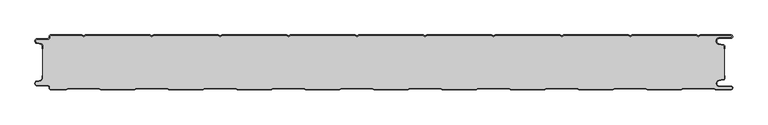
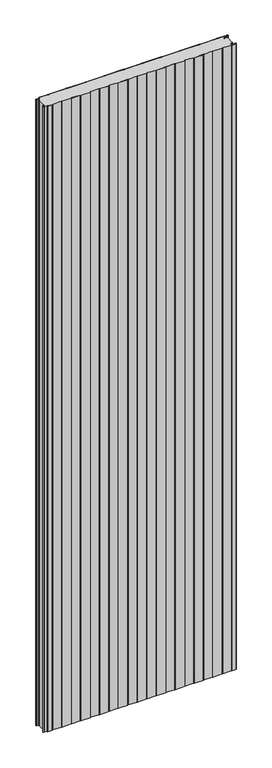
"""IFC4 building model written with IfcOpenShell, lengths in millimetres: plate geometry, PMH_Curtain-PaneL-Standard : ACH_PMH_Stone-wool-Panel_80M."""

from ifc_helpers import new_model, si_unit, point, frame_2d, origin, origin_with_axes, place, context, project, spatial, polyline, circle_curve, trimmed, segment, composite_curve, outline, extrude, source, transform, mapped, element, save


def plate_03b74a93(model_context):
    return source(origin(), model_context, "Body", "SweptSolid", [
        extrude(outline(composite_curve([segment(trimmed(circle_curve(frame_2d((-502.0, -15.878557)), 2.0), [point((-500.0, -15.878557))], [point((-501.5500978, -13.9298169))], True, "CARTESIAN"), True, "CONTINUOUS"), segment(polyline([(-501.5500978, -13.9298169), (-507.7098239, -12.507732)]), True, "CONTINUOUS"), segment(trimmed(circle_curve(frame_2d((-506.9, -9.0)), 3.6), [point((-507.7098239, -12.507732))], [point((-506.9, -5.4))], False, "CARTESIAN"), True, "CONTINUOUS"), segment(polyline([(-506.9, -5.4), (-491.4, -5.4)]), True, "CONTINUOUS"), segment(trimmed(circle_curve(frame_2d((-491.4, -3.4)), 2.0), [point((-491.4, -5.4))], [point((-489.4, -3.4))], True, "CARTESIAN"), True, "CONTINUOUS"), segment(polyline([(-489.4, -3.4), (-489.4, -2.0)]), True, "CONTINUOUS"), segment(trimmed(circle_curve(frame_2d((-487.4, -2.0)), 2.0), [point((-489.4, -2.0))], [point((-487.4, 0.0))], False, "CARTESIAN"), True, "CONTINUOUS"), segment(polyline([(-487.4, 0.0), (-442.0999995, 0.0), (-439.4, -1.5588455), (-436.7000005, 0.0), (-342.0999995, 0.0), (-339.4, -1.5588455), (-336.7000005, 0.0), (-242.0999995, 0.0), (-239.4, -1.5588455), (-236.7000005, 0.0), (-142.0999995, 0.0), (-139.4, -1.5588455), (-136.7000005, 0.0), (-42.0999995, 0.0), (-39.4, -1.5588455), (-36.7000005, 0.0), (57.9000005, 0.0), (60.6, -1.5588455), (63.2999995, 0.0), (157.9000005, 0.0), (160.6, -1.5588455), (163.2999995, 0.0), (257.9000005, 0.0), (260.6, -1.5588455), (263.2999995, 0.0), (357.9000005, 0.0), (360.6, -1.5588455), (363.2999995, 0.0), (457.9000005, 0.0), (460.6, -1.5588455), (463.2999995, 0.0), (508.1, 0.0)]), True, "CONTINUOUS"), segment(trimmed(circle_curve(frame_2d((508.1, -2.5)), 2.5), [point((508.1, 0.0))], [point((508.1, -5.0))], False, "CARTESIAN"), True, "CONTINUOUS"), segment(polyline([(508.1, -5.0), (491.1, -5.0)]), True, "CONTINUOUS"), segment(trimmed(circle_curve(frame_2d((491.1, -9.0)), 4.0), [point((491.1, -5.0))], [point((490.405407, -12.939231))], True, "CARTESIAN"), True, "CONTINUOUS"), segment(polyline([(490.405407, -12.939231), (496.8514855, -14.0758491)]), True, "CONTINUOUS"), segment(trimmed(circle_curve(frame_2d((496.4, -16.6363492)), 2.6), [point((496.8514855, -14.0758491))], [point((499.0, -16.6363492))], False, "CARTESIAN"), True, "CONTINUOUS"), segment(polyline([(499.0, -16.6363492), (499.0, -20.0), (498.2, -20.0), (498.2, -16.6363492)]), True, "CONTINUOUS"), segment(trimmed(circle_curve(frame_2d((496.4, -16.6363492)), 1.8), [point((498.2, -16.6363492))], [point((496.7125669, -14.8636953))], True, "CARTESIAN"), True, "CONTINUOUS"), segment(polyline([(496.7125669, -14.8636953), (490.2664884, -13.7270772)]), True, "CONTINUOUS"), segment(trimmed(circle_curve(frame_2d((491.1, -9.0)), 4.8), [point((490.2664884, -13.7270772))], [point((491.1, -4.2))], False, "CARTESIAN"), True, "CONTINUOUS"), segment(polyline([(491.1, -4.2), (508.1, -4.2)]), True, "CONTINUOUS"), segment(trimmed(circle_curve(frame_2d((508.1, -2.5)), 1.7), [point((508.1, -4.2))], [point((508.1, -0.8))], True, "CARTESIAN"), True, "CONTINUOUS"), segment(polyline([(508.1, -0.8), (463.5143588, -0.8), (460.6, -2.482606), (457.6856412, -0.8), (363.5143588, -0.8), (360.6, -2.482606), (357.6856412, -0.8), (263.5143588, -0.8), (260.6, -2.482606), (257.6856412, -0.8), (163.5143588, -0.8), (160.6, -2.482606), (157.6856412, -0.8), (63.5143588, -0.8), (60.6, -2.482606), (57.6856412, -0.8), (-36.4856412, -0.8), (-39.4, -2.482606), (-42.3143588, -0.8), (-136.4856412, -0.8), (-139.4, -2.482606), (-142.3143588, -0.8), (-236.4856412, -0.8), (-239.4, -2.482606), (-242.3143588, -0.8), (-336.4856412, -0.8), (-339.4, -2.482606), (-342.3143588, -0.8), (-436.4856412, -0.8), (-439.4, -2.482606), (-442.3143588, -0.8), (-487.4, -0.8)]), True, "CONTINUOUS"), segment(trimmed(circle_curve(frame_2d((-487.4, -2.0)), 1.2), [point((-487.4, -0.8))], [point((-488.6, -2.0))], True, "CARTESIAN"), True, "CONTINUOUS"), segment(polyline([(-488.6, -2.0), (-488.6, -3.4)]), True, "CONTINUOUS"), segment(trimmed(circle_curve(frame_2d((-491.4, -3.4)), 2.8), [point((-488.6, -3.4))], [point((-491.4, -6.2))], False, "CARTESIAN"), True, "CONTINUOUS"), segment(polyline([(-491.4, -6.2), (-506.9, -6.2)]), True, "CONTINUOUS"), segment(trimmed(circle_curve(frame_2d((-506.9, -9.0)), 2.8), [point((-506.9, -6.2))], [point((-507.529863, -11.7282362))], True, "CARTESIAN"), True, "CONTINUOUS"), segment(polyline([(-507.529863, -11.7282362), (-501.370137, -13.150321)]), True, "CONTINUOUS"), segment(trimmed(circle_curve(frame_2d((-502.0, -15.878557)), 2.8), [point((-501.370137, -13.150321))], [point((-499.2, -15.878557))], False, "CARTESIAN"), True, "CONTINUOUS"), segment(polyline([(-499.2, -15.878557), (-499.2, -20.0), (-500.0, -20.0), (-500.0, -15.878557)]), True, "CONTINUOUS")], self_intersect=False)), origin_with_axes(), (0.0, 0.0, 1.0), 3500.0),
        extrude(outline(composite_curve([segment(polyline([(-499.2, -64.121443), (-499.2, -15.8785573)]), True, "CONTINUOUS"), segment(trimmed(circle_curve(frame_2d((-502.0, -15.8785573)), 2.8), [point((-499.2, -15.8785573))], [point((-501.370137, -13.1503212))], True, "CARTESIAN"), True, "CONTINUOUS"), segment(polyline([(-501.370137, -13.1503212), (-507.5298631, -11.7282362)]), True, "CONTINUOUS"), segment(trimmed(circle_curve(frame_2d((-506.9, -9.0)), 2.8), [point((-507.5298631, -11.7282362))], [point((-506.9, -6.2))], False, "CARTESIAN"), True, "CONTINUOUS"), segment(polyline([(-506.9, -6.2), (-491.4000001, -6.2)]), True, "CONTINUOUS"), segment(trimmed(circle_curve(frame_2d((-491.4000001, -3.4)), 2.8), [point((-491.4000001, -6.2))], [point((-488.6000001, -3.4))], True, "CARTESIAN"), True, "CONTINUOUS"), segment(polyline([(-488.6000001, -3.4), (-488.6000001, -2.0)]), True, "CONTINUOUS"), segment(trimmed(circle_curve(frame_2d((-487.4000001, -2.0)), 1.2), [point((-488.6000001, -2.0))], [point((-487.4000001, -0.8))], False, "CARTESIAN"), True, "CONTINUOUS"), segment(polyline([(-487.4000001, -0.8), (-442.3143589, -0.8), (-439.4000001, -2.482606), (-436.4856412, -0.8), (-342.3143589, -0.8), (-339.4000001, -2.482606), (-336.4856412, -0.8), (-242.3143589, -0.8), (-239.4000001, -2.482606), (-236.4856412, -0.8), (-142.3143589, -0.8), (-139.4000001, -2.482606), (-136.4856412, -0.8), (-42.3143589, -0.8), (-39.4000001, -2.482606), (-36.4856412, -0.8), (57.6856411, -0.8), (60.5999999, -2.482606), (63.5143588, -0.8), (157.6856411, -0.8), (160.5999999, -2.482606), (163.5143588, -0.8), (257.6856411, -0.8), (260.5999999, -2.482606), (263.5143588, -0.8), (357.6856411, -0.8), (360.5999999, -2.482606), (363.5143588, -0.8), (457.6856411, -0.8), (460.5999999, -2.482606), (463.5143587, -0.8), (508.1, -0.8)]), True, "CONTINUOUS"), segment(trimmed(circle_curve(frame_2d((508.1, -2.5)), 1.7), [point((508.1, -0.8))], [point((508.1, -4.2))], False, "CARTESIAN"), True, "CONTINUOUS"), segment(polyline([(508.1, -4.2), (491.1, -4.2)]), True, "CONTINUOUS"), segment(trimmed(circle_curve(frame_2d((491.1, -9.0)), 4.8), [point((491.1, -4.2))], [point((490.2664883, -13.7270771))], True, "CARTESIAN"), True, "CONTINUOUS"), segment(polyline([(490.2664883, -13.7270771), (496.7125668, -14.8636953)]), True, "CONTINUOUS"), segment(trimmed(circle_curve(frame_2d((496.4, -16.6363492)), 1.8), [point((496.7125668, -14.8636953))], [point((498.2, -16.6363492))], False, "CARTESIAN"), True, "CONTINUOUS"), segment(polyline([(498.2, -16.6363492), (498.2, -63.363652)]), True, "CONTINUOUS"), segment(trimmed(circle_curve(frame_2d((496.4, -63.363652)), 1.8), [point((498.2, -63.363652))], [point((496.7125666, -65.1363059))], False, "CARTESIAN"), True, "CONTINUOUS"), segment(polyline([(496.7125666, -65.1363059), (490.266489, -66.272923)]), True, "CONTINUOUS"), segment(trimmed(circle_curve(frame_2d((491.1, -71.0000002)), 4.7999999), [point((490.266489, -66.272923))], [point((491.1, -75.8000001))], True, "CARTESIAN"), True, "CONTINUOUS"), segment(polyline([(491.1, -75.8000001), (508.1, -75.8000001)]), True, "CONTINUOUS"), segment(trimmed(circle_curve(frame_2d((508.1, -77.5)), 1.7), [point((508.1, -75.8000001))], [point((508.1, -79.2))], False, "CARTESIAN"), True, "CONTINUOUS"), segment(polyline([(508.1, -79.2), (485.8105122, -79.2), (483.2124346, -77.7), (437.9837184, -77.7), (435.3856408, -79.2), (385.8105122, -79.2), (383.2124346, -77.7), (337.9837184, -77.7), (335.3856408, -79.2), (285.8105122, -79.2), (283.2124346, -77.7), (237.9837184, -77.7), (235.3856408, -79.2), (185.8105122, -79.2), (183.2124346, -77.7), (137.9837184, -77.7), (135.3856408, -79.2), (85.8105122, -79.2), (83.2124346, -77.7), (37.9837184, -77.7), (35.3856408, -79.2), (-14.1894878, -79.2), (-16.7875654, -77.7), (-62.0162816, -77.7), (-64.6143592, -79.2), (-114.1894878, -79.2), (-116.7875654, -77.7), (-162.0162816, -77.7), (-164.6143592, -79.2), (-214.1894878, -79.2), (-216.7875654, -77.7), (-262.0162816, -77.7), (-264.6143592, -79.2), (-314.1894878, -79.2), (-316.7875654, -77.7), (-362.0162816, -77.7), (-364.6143592, -79.2), (-414.1894878, -79.2), (-416.7875654, -77.7), (-462.0162816, -77.7), (-464.6143592, -79.2), (-487.4, -79.2)]), True, "CONTINUOUS"), segment(trimmed(circle_curve(frame_2d((-487.4, -78.0)), 1.2), [point((-487.4, -79.2))], [point((-488.6, -78.0))], False, "CARTESIAN"), True, "CONTINUOUS"), segment(polyline([(-488.6, -78.0), (-488.6, -76.5999998)]), True, "CONTINUOUS"), segment(trimmed(circle_curve(frame_2d((-491.4, -76.5999998)), 2.8), [point((-488.6, -76.5999998))], [point((-491.4, -73.7999998))], True, "CARTESIAN"), True, "CONTINUOUS"), segment(polyline([(-491.4, -73.7999998), (-506.9, -73.7999998)]), True, "CONTINUOUS"), segment(trimmed(circle_curve(frame_2d((-506.9, -71.0)), 2.7999998), [point((-506.9, -73.7999998))], [point((-507.529863, -68.271764))], False, "CARTESIAN"), True, "CONTINUOUS"), segment(polyline([(-507.529863, -68.271764), (-501.370137, -66.8496792)]), True, "CONTINUOUS"), segment(trimmed(circle_curve(frame_2d((-502.0, -64.121443)), 2.8), [point((-501.370137, -66.8496792))], [point((-499.2, -64.121443))], True, "CARTESIAN"), True, "CONTINUOUS")], self_intersect=False)), origin_with_axes(), (0.0, 0.0, 1.0), 3500.0),
        extrude(outline(composite_curve([segment(trimmed(circle_curve(frame_2d((-487.4, -78.0)), 2.0), [point((-487.4, -80.0))], [point((-489.4, -78.0))], False, "CARTESIAN"), True, "CONTINUOUS"), segment(polyline([(-489.4, -78.0), (-489.4, -76.6)]), True, "CONTINUOUS"), segment(trimmed(circle_curve(frame_2d((-491.4, -76.6)), 2.0), [point((-489.4, -76.6))], [point((-491.4, -74.6))], True, "CARTESIAN"), True, "CONTINUOUS"), segment(polyline([(-491.4, -74.6), (-506.9, -74.6)]), True, "CONTINUOUS"), segment(trimmed(circle_curve(frame_2d((-506.9, -71.0)), 3.6), [point((-506.9, -74.6))], [point((-507.7098239, -67.4922678))], False, "CARTESIAN"), True, "CONTINUOUS"), segment(polyline([(-507.7098239, -67.4922678), (-501.5500979, -66.070183)]), True, "CONTINUOUS"), segment(trimmed(circle_curve(frame_2d((-502.0, -64.121443)), 2.0), [point((-501.5500979, -66.070183))], [point((-500.0, -64.121443))], True, "CARTESIAN"), True, "CONTINUOUS"), segment(polyline([(-500.0, -64.121443), (-500.0, -60.0), (-499.2, -60.0), (-499.2, -64.121443)]), True, "CONTINUOUS"), segment(trimmed(circle_curve(frame_2d((-502.0, -64.121443)), 2.8), [point((-499.2, -64.121443))], [point((-501.370137, -66.8496792))], False, "CARTESIAN"), True, "CONTINUOUS"), segment(polyline([(-501.370137, -66.8496792), (-507.529863, -68.271764)]), True, "CONTINUOUS"), segment(trimmed(circle_curve(frame_2d((-506.9, -71.0)), 2.8), [point((-507.529863, -68.271764))], [point((-506.9, -73.8))], True, "CARTESIAN"), True, "CONTINUOUS"), segment(polyline([(-506.9, -73.8), (-491.4, -73.8)]), True, "CONTINUOUS"), segment(trimmed(circle_curve(frame_2d((-491.4, -76.6)), 2.8), [point((-491.4, -73.8))], [point((-488.6, -76.6))], False, "CARTESIAN"), True, "CONTINUOUS"), segment(polyline([(-488.6, -76.6), (-488.6, -78.0)]), True, "CONTINUOUS"), segment(trimmed(circle_curve(frame_2d((-487.4, -78.0)), 1.2), [point((-488.6, -78.0))], [point((-487.4, -79.2))], True, "CARTESIAN"), True, "CONTINUOUS"), segment(polyline([(-487.4, -79.2), (-464.6143592, -79.2), (-462.0162816, -77.7), (-416.7875654, -77.7), (-414.1894878, -79.2), (-364.6143592, -79.2), (-362.0162816, -77.7), (-316.7875654, -77.7), (-314.1894878, -79.2), (-264.6143592, -79.2), (-262.0162816, -77.7), (-216.7875654, -77.7), (-214.1894878, -79.2), (-164.6143592, -79.2), (-162.0162816, -77.7), (-116.7875654, -77.7), (-114.1894878, -79.2), (-64.6143592, -79.2), (-62.0162816, -77.7), (-16.7875654, -77.7), (-14.1894878, -79.2), (35.3856408, -79.2), (37.9837184, -77.7), (83.2124346, -77.7), (85.8105122, -79.2), (135.3856408, -79.2), (137.9837184, -77.7), (183.2124346, -77.7), (185.8105122, -79.2), (235.3856408, -79.2), (237.9837184, -77.7), (283.2124346, -77.7), (285.8105122, -79.2), (335.3856408, -79.2), (337.9837184, -77.7), (383.2124346, -77.7), (385.8105122, -79.2), (435.3856408, -79.2), (437.9837184, -77.7), (483.2124346, -77.7), (485.8105122, -79.2), (508.1, -79.2)]), True, "CONTINUOUS"), segment(trimmed(circle_curve(frame_2d((508.1, -77.5)), 1.7), [point((508.1, -79.2))], [point((508.1, -75.8))], True, "CARTESIAN"), True, "CONTINUOUS"), segment(polyline([(508.1, -75.8), (491.1, -75.8)]), True, "CONTINUOUS"), segment(trimmed(circle_curve(frame_2d((491.1, -71.0)), 4.8), [point((491.1, -75.8))], [point((490.266489, -66.2729227))], False, "CARTESIAN"), True, "CONTINUOUS"), segment(polyline([(490.266489, -66.2729227), (496.7125666, -65.1363058)]), True, "CONTINUOUS"), segment(trimmed(circle_curve(frame_2d((496.4, -63.363652)), 1.8), [point((496.7125666, -65.1363058))], [point((498.2, -63.363652))], True, "CARTESIAN"), True, "CONTINUOUS"), segment(polyline([(498.2, -63.363652), (498.2, -60.0), (499.0, -60.0), (499.0, -63.363652)]), True, "CONTINUOUS"), segment(trimmed(circle_curve(frame_2d((496.4, -63.363652)), 2.6), [point((499.0, -63.363652))], [point((496.8514851, -65.9241522))], False, "CARTESIAN"), True, "CONTINUOUS"), segment(polyline([(496.8514851, -65.9241522), (490.4054075, -67.0607691)]), True, "CONTINUOUS"), segment(trimmed(circle_curve(frame_2d((491.1, -71.0)), 4.0), [point((490.4054075, -67.0607691))], [point((491.1, -75.0))], True, "CARTESIAN"), True, "CONTINUOUS"), segment(polyline([(491.1, -75.0), (508.1, -75.0)]), True, "CONTINUOUS"), segment(trimmed(circle_curve(frame_2d((508.1, -77.5)), 2.5), [point((508.1, -75.0))], [point((508.1, -80.0))], False, "CARTESIAN"), True, "CONTINUOUS"), segment(polyline([(508.1, -80.0), (485.5961529, -80.0), (482.9980753, -78.5), (438.1980777, -78.5), (435.6000001, -80.0), (385.5961529, -80.0), (382.9980753, -78.5), (338.1980777, -78.5), (335.6000001, -80.0), (285.5961529, -80.0), (282.9980753, -78.5), (238.1980777, -78.5), (235.6000001, -80.0), (185.5961529, -80.0), (182.9980753, -78.5), (138.1980777, -78.5), (135.6000001, -80.0), (85.5961529, -80.0), (82.9980753, -78.5), (38.1980777, -78.5), (35.6000001, -80.0), (-14.4038471, -80.0), (-17.0019247, -78.5), (-61.8019223, -78.5), (-64.3999999, -80.0), (-114.4038471, -80.0), (-117.0019247, -78.5), (-161.8019223, -78.5), (-164.3999999, -80.0), (-214.4038471, -80.0), (-217.0019247, -78.5), (-261.8019223, -78.5), (-264.3999999, -80.0), (-314.4038471, -80.0), (-317.0019247, -78.5), (-361.8019223, -78.5), (-364.3999999, -80.0), (-414.4038471, -80.0), (-417.0019247, -78.5), (-461.8019223, -78.5), (-464.3999999, -80.0), (-487.4, -80.0)]), True, "CONTINUOUS")], self_intersect=False)), origin_with_axes(), (0.0, 0.0, 1.0), 3500.0),
    ])


if __name__ == "__main__":
    model = new_model("IFC4")
    model_context = context("Model", 3, world=origin())
    ifc_project = project(units=[si_unit("LENGTHUNIT", "METRE", prefix="MILLI")], contexts=[model_context])
    site = spatial("IfcSite", under=ifc_project)
    building = spatial("IfcBuilding", under=site)
    placement = place(None, origin())
    plate_shape = plate_03b74a93(model_context)
    element("IfcPlate", 1, ObjectType="PMH_Curtain-PaneL-Standard : ACH_PMH_Stone-wool-Panel_80M", at=placement, inside=building, context=model_context, shape_type="MappedRepresentation", body=[
        mapped(plate_shape, transform((0.0, 0.0, 0.0), x_axis=(1.0, 0.0, 0.0), y_axis=(0.0, 1.0, 0.0), z_axis=(0.0, 0.0, 1.0))),
    ])
    save(model, "model.ifc")
